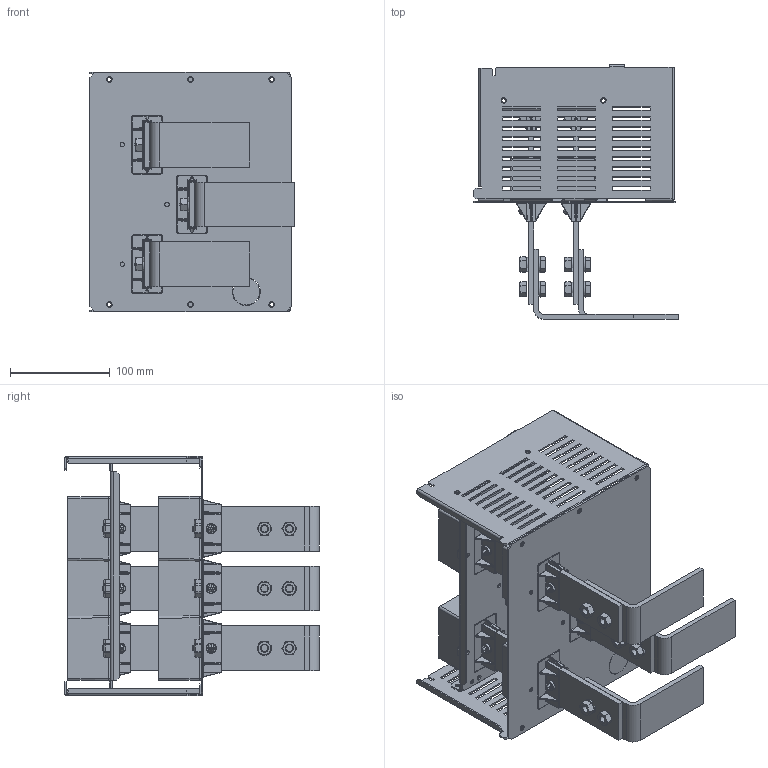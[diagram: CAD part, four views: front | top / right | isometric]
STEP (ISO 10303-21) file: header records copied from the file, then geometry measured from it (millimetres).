
FILE_DESCRIPTION(('CAx-IF Rec.Pracs.---Model Styling and Organization---1.2---2011-12-15','CAx-IF Rec.Pracs.---Geometric and Assembly Validation Properties---4.1---2014-06-16','CAx-IF Rec.Pracs.---PMI Polyline Presentation---2.0---2013-05-24'),'2;1');
FILE_NAME('R5M2W5MRT3B.stp','2021-05-05T13:06:26+03:00',(''),(''),'STEP Interface 4.4 by CT CoreTechnologie','3D_Evolution4.4 by CT CoreTechnologie','');
FILE_SCHEMA(('AUTOMOTIVE_DESIGN { 1 0 10303 214 1 1 1 1 }'));
Length unit declared in the file: millimetre
Products named in the file (15): R5M2W5MRT3B; Ì8  DIN934 ÑÌ110800INOX; V02.ÒÏÀ.08.0042.00.00.0_¤«ï ¨­áâàãªæ¨¨ ¡¥§ ¯ «ìæ; V02.ÒÏÀ.08.0042.00.00.0_¤«ï ¨­áâàãªæ¨¨ ¯ «¥æ; Ì4-GOST R 50273-92 (DIN 985)_thread; 8 DIN127 ÑÌ130800INOX; M8x25-DIN 933_thread; A.8.01-GOST 11371-78 (DIN 125A) (CM240800)_ ©¡  A.8.016  11371-78; RB.1242.00.00.0_-02; RB.1217.00.00.0_-00; RB.1465.00.00.0_-00; RB.1466.00.00.1_-02; RB.1465.00.00.0_-01; RB.1584.00.00.1_-02; RB.1585.00.00.0_-01
Assembly tree (55 placements, depth 2):
  R5M2W5MRT3B
    Ì8  DIN934 ÑÌ110800INOX  x6
    V02.ÒÏÀ.08.0042.00.00.0_¤«ï ¨­áâàãªæ¨¨ ¡¥§ ¯ «ìæ  x6
    V02.ÒÏÀ.08.0042.00.00.0_¤«ï ¨­áâàãªæ¨¨ ¯ «¥æ  x6
    Ì4-GOST R 50273-92 (DIN 985)_thread  x10
    8 DIN127 ÑÌ130800INOX  x3
    M8x25-DIN 933_thread  x6
    A.8.01-GOST 11371-78 (DIN 125A) (CM240800)_ ©¡  A.8.016  11371-78  x6
    RB.1242.00.00.0_-02
    RB.1217.00.00.0_-00  x2
    RB.1465.00.00.0_-00
    RB.1466.00.00.1_-02
    RB.1465.00.00.0_-01
    RB.1584.00.00.1_-02  x3
    RB.1585.00.00.0_-01  x3
Bounding box: 205 x 255.5 x 240 mm (x, y, z)
Surface area: 572747.9 mm2 (no closed solid volume)
Topology: 0 solids, 65 shells, 3474 faces, 8793 edges, 5437 vertices
Faces by surface type: plane 1444, bspline 1062, cylinder 968
Entity records: 47018 total; most frequent: CARTESIAN_POINT 18539, ORIENTED_EDGE 5766, DIRECTION 5396, EDGE_CURVE 2883, VECTOR 2004, LINE 2004, VERTEX_POINT 1850, AXIS2_PLACEMENT_3D 1696
